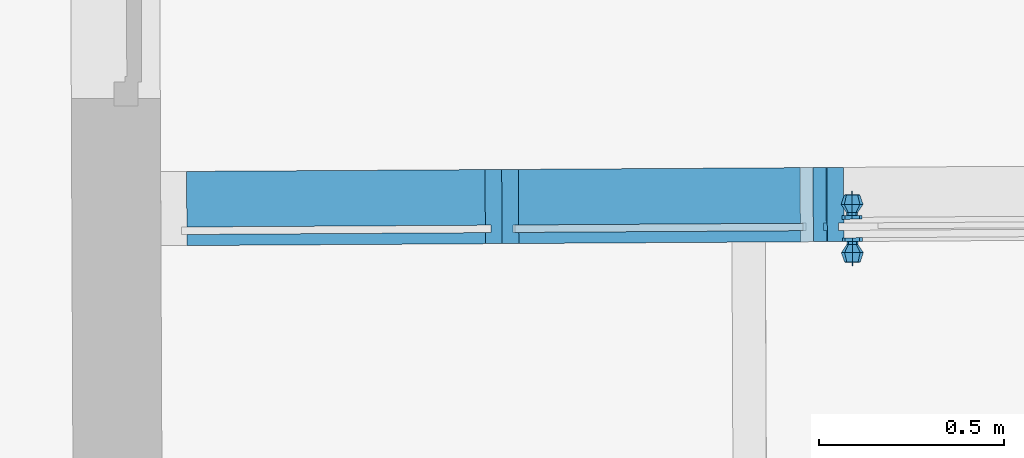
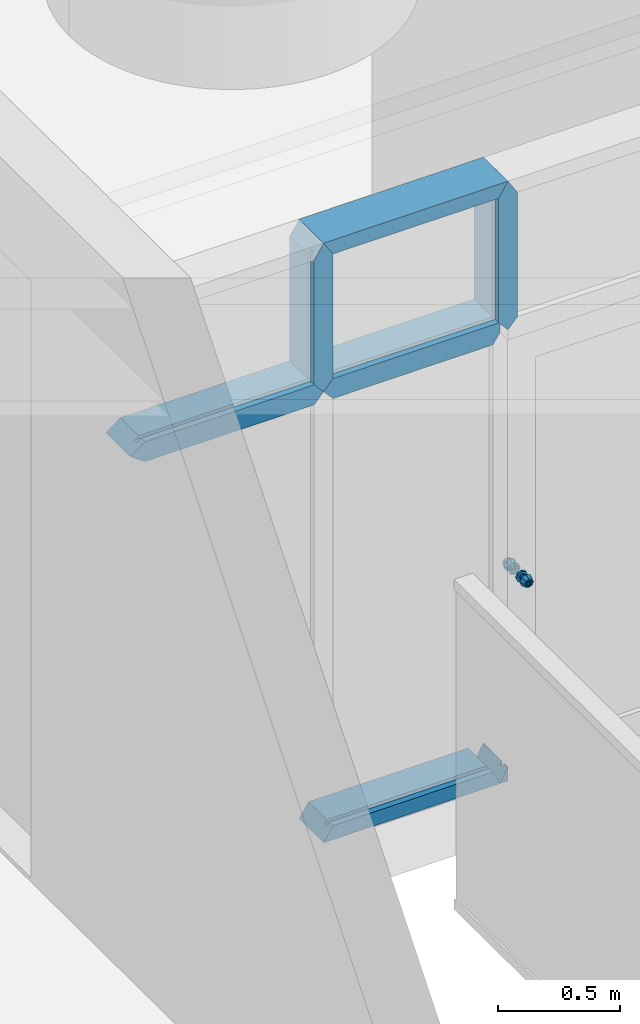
# One storey, part 123 of 158: 8 building element parts, 1 element without a shape of its own.
"""IFC2X3 building model written with IfcOpenShell, lengths in metres."""

from ifc_helpers import new_model, entity, si_unit, converted_unit, derived_unit, money_unit, direction, frame, origin_with_axes, place, context, subcontext, project, spatial, open_shell, faceted_brep, surface_model, material, type_object, element, aggregate, save


model = new_model("IFC2X3")

# Units and contexts
model_context = context("Model", 3, precision=1e-05, world=origin_with_axes(), true_north=direction((0.0, 1.0)))
body_context = subcontext(model_context, "Body", "Model", "MODEL_VIEW")
ifc_project = project(units=[si_unit("LENGTHUNIT", "METRE"), si_unit("AREAUNIT", "SQUARE_METRE"), si_unit("VOLUMEUNIT", "CUBIC_METRE"), converted_unit("PLANEANGLEUNIT", "DEGREE", entity("IfcPlaneAngleMeasure", 0.0174532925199), si_unit("PLANEANGLEUNIT", "RADIAN"), dimensions=[0, 0, 0, 0, 0, 0, 0]), money_unit("EUR"), converted_unit("TIMEUNIT", "Year", entity("IfcTimeMeasure", 31556926.0), si_unit("TIMEUNIT", "SECOND"), dimensions=[0, 0, 1, 0, 0, 0, 0]), si_unit("MASSUNIT", "GRAM", prefix="KILO"), si_unit("THERMODYNAMICTEMPERATUREUNIT", "DEGREE_CELSIUS"), si_unit("LUMINOUSINTENSITYUNIT", "LUMEN"), si_unit("ENERGYUNIT", "JOULE", prefix="MEGA"), derived_unit("THERMALCONDUCTANCEUNIT", [(si_unit("POWERUNIT", "WATT"), 1), (si_unit("LENGTHUNIT", "METRE"), -1), (si_unit("THERMODYNAMICTEMPERATUREUNIT", "KELVIN"), -1)]), derived_unit("SPECIFICHEATCAPACITYUNIT", [(si_unit("ENERGYUNIT", "JOULE"), 1), (si_unit("MASSUNIT", "GRAM", prefix="KILO"), -1), (si_unit("THERMODYNAMICTEMPERATUREUNIT", "KELVIN"), -1)]), derived_unit("MASSDENSITYUNIT", [(si_unit("MASSUNIT", "GRAM", prefix="KILO"), 1), (si_unit("VOLUMEUNIT", "CUBIC_METRE"), -1)])], contexts=[model_context])

# Site, building, storey
site_placement = place(None, origin_with_axes())
site = spatial("IfcSite", under=ifc_project, at=site_placement, Name="Gelände", CompositionType="ELEMENT")
building_placement = place(site_placement, origin_with_axes())
building = spatial("IfcBuilding", under=site, at=building_placement, Name="Gebäude", CompositionType="ELEMENT")
storey_placement = place(building_placement, origin_with_axes())
storey = spatial("IfcBuildingStorey", under=building, at=storey_placement, Name="ERDGESCHOSS", CompositionType="ELEMENT", Elevation=0.0)

# Proxy, building element parts
building_element_proxy_type = type_object("IfcBuildingElementProxyType", Name="Fassadentyp", PredefinedType="NOTDEFINED")
proxy_placement = place(storey_placement, frame((-24.5086107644, 39.472840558, 1.345), z_axis=(0.0, 0.0, 1.0), x_axis=(1.0, 0.0, 0.0)))
proxy = element("IfcBuildingElementProxy", 1, at=proxy_placement, inside=storey, type_object=building_element_proxy_type, Name="Fassade-002")
ifc_material_1 = material(Name="54_Metall, Edelstahl")
building_element_part_1_placement = place(proxy_placement, origin_with_axes())
building_element_part_1 = element("IfcBuildingElementPart", 2, at=building_element_part_1_placement, material=ifc_material_1, Name="54_Metall, Edelstahl", context=body_context, shape_type="SurfaceModel", body=[
    surface_model("IfcShellBasedSurfaceModel", [(-0.324609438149, -0.0972115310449, 1.008), (-0.316609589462, -0.0971623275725, 1.0113137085), (-0.316596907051, -0.0992243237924, 1.01626690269), (-0.32809912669, -0.0992950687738, 1.0115024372), (-0.327923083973, -0.0972319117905, 1.0), (-0.324609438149, -0.0972115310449, 0.992), (-0.316609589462, -0.0971623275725, 0.988686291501), (-0.308609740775, -0.0971131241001, 0.992), (-0.305296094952, -0.0970927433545, 1.0), (-0.308609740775, -0.0971131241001, 1.008), (-0.305094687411, -0.099153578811, 1.0115024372), (-0.316609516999, -0.0971741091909, 1.02122498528), (-0.33161756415, -0.097266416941, 1.01500833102), (-0.332863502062, -0.0993243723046, 1.0), (-0.32809912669, -0.0992950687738, 0.988497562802), (-0.316596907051, -0.0992243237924, 0.983733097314), (-0.305094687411, -0.099153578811, 0.988497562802), (-0.300330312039, -0.0991242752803, 1.0), (-0.301601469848, -0.0970818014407, 1.01500833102), (-0.316764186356, -0.0720268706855, 1.02975923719), (-0.337806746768, -0.0721562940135, 1.02104295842), (-0.337834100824, -0.097304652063, 1.0), (-0.33161756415, -0.097266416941, 0.98499166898), (-0.316609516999, -0.0971741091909, 0.978775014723), (-0.301601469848, -0.0970818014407, 0.98499166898), (-0.295384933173, -0.0970435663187, 1.0), (-0.295721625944, -0.0718974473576, 1.02104295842), (-0.316899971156, -0.0499500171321, 1.015), (-0.32750637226, -0.0500152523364, 1.01060660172), (-0.346522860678, -0.0722099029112, 1.0), (-0.337806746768, -0.0721562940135, 0.978957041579), (-0.316764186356, -0.0720268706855, 0.970240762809), (-0.295721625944, -0.0718974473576, 0.978957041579), (-0.287005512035, -0.0718438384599, 1.0), (-0.306293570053, -0.0498847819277, 1.01060660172), (-0.316900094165, -0.0499300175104, 1.015), (-0.327506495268, -0.0499952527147, 1.01060660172), (-0.331899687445, -0.0500422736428, 1.0), (-0.32750637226, -0.0500152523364, 0.989393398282), (-0.316899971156, -0.0499500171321, 0.985), (-0.306293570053, -0.0498847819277, 0.989393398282), (-0.301900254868, -0.0498577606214, 1.0), (-0.306293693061, -0.049864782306, 1.01060660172), (-0.316948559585, -0.0420501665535, 1.015), (-0.327554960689, -0.0421154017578, 1.01060660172), (-0.331899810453, -0.0500222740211, 1.0), (-0.327506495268, -0.0499952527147, 0.989393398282), (-0.316900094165, -0.0499300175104, 0.985), (-0.306293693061, -0.049864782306, 0.989393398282), (-0.301900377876, -0.0498377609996, 1.0), (-0.306342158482, -0.0419849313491, 1.01060660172), (-0.316949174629, -0.0419501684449, 1.015), (-0.327555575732, -0.0420154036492, 1.01060660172), (-0.331948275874, -0.0421424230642, 1.0), (-0.327554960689, -0.0421154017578, 0.989393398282), (-0.316948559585, -0.0420501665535, 0.985), (-0.306342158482, -0.0419849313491, 0.989393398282), (-0.301948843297, -0.0419579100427, 1.0), (-0.306342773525, -0.0418849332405, 1.01060660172), (-0.316949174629, -0.0419501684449, 1.0151), (-0.327626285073, -0.0420158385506, 1.0106773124), (-0.331948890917, -0.0420424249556, 1.0), (-0.327555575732, -0.0420154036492, 0.989393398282), (-0.316949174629, -0.0419501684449, 0.985), (-0.306342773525, -0.0418849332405, 0.989393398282), (-0.30194945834, -0.0418579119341, 1.0), (-0.306272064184, -0.0418844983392, 1.0106773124), (-0.316949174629, -0.0419501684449, 1.0269), (-0.335969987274, -0.0420671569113, 1.01902117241), (-0.332048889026, -0.042043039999, 1.0), (-0.327626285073, -0.0420158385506, 0.989322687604), (-0.316949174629, -0.0419501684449, 0.9849), (-0.306272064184, -0.0418844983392, 0.989322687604), (-0.301849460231, -0.0418572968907, 1.0), (-0.297928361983, -0.0418331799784, 1.01902117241), (-0.316949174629, -0.0419501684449, 1.027), (-0.336040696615, -0.0420675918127, 1.01909188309), (-0.343848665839, -0.0421156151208, 1.0), (-0.335969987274, -0.0420671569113, 0.980978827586), (-0.316949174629, -0.0419501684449, 0.9731), (-0.297928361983, -0.0418331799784, 0.980978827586), (-0.290049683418, -0.041784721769, 1.0), (-0.297857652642, -0.0418327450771, 1.01909188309), (-0.316949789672, -0.0418501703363, 1.027), (-0.336041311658, -0.0419675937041, 1.01909188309), (-0.343948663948, -0.0421162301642, 1.0), (-0.336040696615, -0.0420675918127, 0.980908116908), (-0.316949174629, -0.0419501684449, 0.973), (-0.297857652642, -0.0418327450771, 0.980908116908), (-0.289949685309, -0.0417841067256, 1.0), (-0.297858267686, -0.0417327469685, 1.01909188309), (-0.317010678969, -0.0319503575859, 1.027), (-0.336102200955, -0.0320677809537, 1.01909188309), (-0.343949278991, -0.0420162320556, 1.0), (-0.336041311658, -0.0419675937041, 0.980908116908), (-0.316949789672, -0.0418501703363, 0.973), (-0.297858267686, -0.0417327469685, 0.980908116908), (-0.289950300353, -0.041684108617, 1.0), (-0.297919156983, -0.031832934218, 1.01909188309), (-0.344010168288, -0.0321164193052, 1.0), (-0.336102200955, -0.0320677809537, 0.980908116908), (-0.317010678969, -0.0319503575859, 0.973), (-0.297919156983, -0.031832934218, 0.980908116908), (-0.29001118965, -0.0317842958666, 1.0)], [open_shell([[[0, 1, 2, 3]], [[1, 0, 4, 5, 6, 7, 8, 9]], [[1, 9, 10, 2]], [[3, 2, 11, 12]], [[4, 0, 3, 13]], [[5, 4, 13, 14]], [[6, 5, 14, 15]], [[7, 6, 15, 16]], [[8, 7, 16, 17]], [[9, 8, 17, 10]], [[2, 10, 18, 11]], [[12, 11, 19, 20]], [[13, 3, 12, 21]], [[14, 13, 21, 22]], [[15, 14, 22, 23]], [[16, 15, 23, 24]], [[17, 16, 24, 25]], [[10, 17, 25, 18]], [[11, 18, 26, 19]], [[20, 19, 27, 28]], [[21, 12, 20, 29]], [[22, 21, 29, 30]], [[23, 22, 30, 31]], [[24, 23, 31, 32]], [[25, 24, 32, 33]], [[18, 25, 33, 26]], [[19, 26, 34, 27]], [[28, 27, 35, 36]], [[29, 20, 28, 37]], [[30, 29, 37, 38]], [[31, 30, 38, 39]], [[32, 31, 39, 40]], [[33, 32, 40, 41]], [[26, 33, 41, 34]], [[27, 34, 42, 35]], [[36, 35, 43, 44]], [[37, 28, 36, 45]], [[38, 37, 45, 46]], [[39, 38, 46, 47]], [[40, 39, 47, 48]], [[41, 40, 48, 49]], [[34, 41, 49, 42]], [[35, 42, 50, 43]], [[44, 43, 51, 52]], [[45, 36, 44, 53]], [[46, 45, 53, 54]], [[47, 46, 54, 55]], [[48, 47, 55, 56]], [[49, 48, 56, 57]], [[42, 49, 57, 50]], [[43, 50, 58, 51]], [[52, 51, 59, 60]], [[53, 44, 52, 61]], [[54, 53, 61, 62]], [[55, 54, 62, 63]], [[56, 55, 63, 64]], [[57, 56, 64, 65]], [[50, 57, 65, 58]], [[51, 58, 66, 59]], [[60, 59, 67, 68]], [[61, 52, 60, 69]], [[62, 61, 69, 70]], [[63, 62, 70, 71]], [[64, 63, 71, 72]], [[65, 64, 72, 73]], [[58, 65, 73, 66]], [[59, 66, 74, 67]], [[68, 67, 75, 76]], [[69, 60, 68, 77]], [[70, 69, 77, 78]], [[71, 70, 78, 79]], [[72, 71, 79, 80]], [[73, 72, 80, 81]], [[66, 73, 81, 74]], [[67, 74, 82, 75]], [[76, 75, 83, 84]], [[77, 68, 76, 85]], [[78, 77, 85, 86]], [[79, 78, 86, 87]], [[80, 79, 87, 88]], [[81, 80, 88, 89]], [[74, 81, 89, 82]], [[75, 82, 90, 83]], [[84, 83, 91, 92]], [[85, 76, 84, 93]], [[86, 85, 93, 94]], [[87, 86, 94, 95]], [[88, 87, 95, 96]], [[89, 88, 96, 97]], [[82, 89, 97, 90]], [[83, 90, 98, 91]], [[93, 84, 92, 99]], [[94, 93, 99, 100]], [[95, 94, 100, 101]], [[96, 95, 101, 102]], [[97, 96, 102, 103]], [[90, 97, 103, 98]]])]),
    faceted_brep([(-0.30918510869, -0.0971166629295, 0.992575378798), (-0.316609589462, -0.0971623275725, 0.9895), (-0.324034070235, -0.0972079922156, 0.992575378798), (-0.327109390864, -0.09722690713, 1.0), (-0.324034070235, -0.0972079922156, 1.0074246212), (-0.316609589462, -0.0971623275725, 1.0105), (-0.30918510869, -0.0971166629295, 1.0074246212), (-0.30610978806, -0.097097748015, 1.0), (-0.309175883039, -0.0986166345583, 0.992575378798), (-0.316600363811, -0.0986622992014, 0.9895), (-0.324024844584, -0.0987079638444, 0.992575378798), (-0.327100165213, -0.0987268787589, 1.0), (-0.324024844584, -0.0987079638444, 1.0074246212), (-0.316600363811, -0.0986622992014, 1.0105), (-0.309175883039, -0.0986166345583, 1.0074246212), (-0.306100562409, -0.0985977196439, 1.0)], [[[0, 1, 2, 3, 4, 5, 6, 7]], [[1, 0, 8, 9]], [[2, 1, 9, 10]], [[3, 2, 10, 11]], [[4, 3, 11, 12]], [[5, 4, 12, 13]], [[6, 5, 13, 14]], [[7, 6, 14, 15]], [[0, 7, 15, 8]], [[8, 15, 14, 13, 12, 11, 10, 9]]]),
    faceted_brep([(-0.315100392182, -0.0986530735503, 0.99), (-0.315056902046, -0.105724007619, 0.992928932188), (-0.318056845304, -0.105742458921, 0.992928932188), (-0.31810033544, -0.0986715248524, 0.99), (-0.315100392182, -0.0986530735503, 1.01), (-0.315056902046, -0.105724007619, 1.00707106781), (-0.315038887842, -0.108652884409, 1.0), (-0.3180388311, -0.108671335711, 1.0), (-0.318056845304, -0.105742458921, 1.00707106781), (-0.31810033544, -0.0986715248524, 1.01)], [[[0, 1, 2, 3]], [[0, 4, 5, 6, 1]], [[1, 6, 7, 2]], [[3, 2, 7, 8, 9]], [[4, 0, 3, 9]], [[5, 4, 9, 8]], [[6, 5, 8, 7]]]),
    surface_model("IfcShellBasedSurfaceModel", [(-0.325719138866, 0.0832114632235, 1.008), (-0.32923419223, 0.0852519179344, 1.0115024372), (-0.31773197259, 0.0853226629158, 1.01626690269), (-0.317719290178, 0.0832606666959, 1.0113137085), (-0.329032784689, 0.0831910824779, 1.0), (-0.333998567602, 0.0852226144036, 1.0), (-0.332727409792, 0.0831801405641, 1.01500833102), (-0.317719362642, 0.0832724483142, 1.02122498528), (-0.30622975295, 0.0853934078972, 1.0115024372), (-0.309719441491, 0.0833098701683, 1.008), (-0.306405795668, 0.0833302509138, 1.0), (-0.309719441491, 0.0833098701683, 0.992), (-0.317719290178, 0.0832606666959, 0.988686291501), (-0.325719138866, 0.0832114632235, 0.992), (-0.32923419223, 0.0852519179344, 0.988497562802), (-0.338943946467, 0.0831419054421, 1.0), (-0.338607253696, 0.057995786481, 1.02104295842), (-0.317564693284, 0.0581252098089, 1.02975923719), (-0.302711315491, 0.0833647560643, 1.01500833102), (-0.301465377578, 0.0854227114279, 1.0), (-0.30622975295, 0.0853934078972, 0.988497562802), (-0.31773197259, 0.0853226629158, 0.983733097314), (-0.332727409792, 0.0831801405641, 0.98499166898), (-0.347323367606, 0.0579421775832, 1.0), (-0.328035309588, 0.0359831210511, 1.01060660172), (-0.317428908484, 0.0360483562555, 1.015), (-0.296522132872, 0.0582546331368, 1.02104295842), (-0.296494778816, 0.0834029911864, 1.0), (-0.302711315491, 0.0833647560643, 0.98499166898), (-0.317719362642, 0.0832724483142, 0.978775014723), (-0.338607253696, 0.057995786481, 0.978957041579), (-0.332428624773, 0.0359560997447, 1.0), (-0.328035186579, 0.0359631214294, 1.01060660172), (-0.317428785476, 0.0360283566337, 1.015), (-0.306822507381, 0.0361135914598, 1.01060660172), (-0.287806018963, 0.0583082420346, 1.0), (-0.296522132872, 0.0582546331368, 0.978957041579), (-0.317564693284, 0.0581252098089, 0.970240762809), (-0.328035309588, 0.0359831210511, 0.989393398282), (-0.332428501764, 0.035936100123, 1.0), (-0.327986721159, 0.0280832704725, 1.01060660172), (-0.317380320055, 0.0281485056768, 1.015), (-0.306822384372, 0.0360935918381, 1.01060660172), (-0.302429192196, 0.0361406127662, 1.0), (-0.306822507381, 0.0361135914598, 0.989393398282), (-0.317428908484, 0.0360483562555, 0.985), (-0.328035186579, 0.0359631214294, 0.989393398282), (-0.332380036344, 0.0280562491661, 1.0), (-0.327986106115, 0.0279832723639, 1.01060660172), (-0.317379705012, 0.0280485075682, 1.015), (-0.306773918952, 0.0282137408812, 1.01060660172), (-0.302429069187, 0.0361206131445, 1.0), (-0.306822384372, 0.0360935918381, 0.989393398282), (-0.317428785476, 0.0360283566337, 0.985), (-0.327986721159, 0.0280832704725, 0.989393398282), (-0.3323794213, 0.0279562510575, 1.0), (-0.328056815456, 0.0279828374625, 1.0106773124), (-0.317379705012, 0.0280485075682, 1.0151), (-0.306773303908, 0.0281137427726, 1.01060660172), (-0.302380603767, 0.0282407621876, 1.0), (-0.306773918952, 0.0282137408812, 0.989393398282), (-0.317380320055, 0.0281485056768, 0.985), (-0.327986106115, 0.0279832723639, 0.989393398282), (-0.332479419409, 0.0279556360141, 1.0), (-0.336400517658, 0.0279315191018, 1.01902117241), (-0.317379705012, 0.0280485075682, 1.0269), (-0.306702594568, 0.0281141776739, 1.0106773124), (-0.302379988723, 0.028140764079, 1.0), (-0.306773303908, 0.0281137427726, 0.989393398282), (-0.317379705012, 0.0280485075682, 0.985), (-0.328056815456, 0.0279828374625, 0.989322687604), (-0.344279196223, 0.0278830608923, 1.0), (-0.336471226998, 0.0279310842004, 1.01909188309), (-0.317379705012, 0.0280485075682, 1.027), (-0.298358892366, 0.0281654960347, 1.01902117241), (-0.302279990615, 0.0281413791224, 1.0), (-0.306702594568, 0.0281141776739, 0.989322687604), (-0.317379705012, 0.0280485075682, 0.9849), (-0.336400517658, 0.0279315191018, 0.980978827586), (-0.344379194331, 0.0278824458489, 1.0), (-0.336470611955, 0.0278310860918, 1.01909188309), (-0.317379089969, 0.0279485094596, 1.027), (-0.298288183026, 0.0281659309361, 1.01909188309), (-0.290480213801, 0.0282139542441, 1.0), (-0.298358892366, 0.0281654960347, 0.980978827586), (-0.317379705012, 0.0280485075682, 0.9731), (-0.336471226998, 0.0279310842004, 0.980908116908), (-0.344378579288, 0.0277824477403, 1.0), (-0.336409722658, 0.0179312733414, 1.01909188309), (-0.317318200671, 0.0180486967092, 1.027), (-0.298287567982, 0.0280659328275, 1.01909188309), (-0.290380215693, 0.0282145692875, 1.0), (-0.298288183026, 0.0281659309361, 0.980908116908), (-0.317379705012, 0.0280485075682, 0.973), (-0.336470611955, 0.0278310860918, 0.980908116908), (-0.344317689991, 0.0178826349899, 1.0), (-0.298226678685, 0.018166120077, 1.01909188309), (-0.290379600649, 0.028114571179, 1.0), (-0.298287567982, 0.0280659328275, 0.980908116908), (-0.317379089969, 0.0279485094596, 0.973), (-0.336409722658, 0.0179312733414, 0.980908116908), (-0.290318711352, 0.0182147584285, 1.0), (-0.298226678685, 0.018166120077, 0.980908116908), (-0.317318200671, 0.0180486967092, 0.973)], [open_shell([[[0, 1, 2, 3]], [[4, 5, 1, 0]], [[1, 6, 7, 2]], [[3, 2, 8, 9]], [[3, 9, 10, 11, 12, 13, 4, 0]], [[13, 14, 5, 4]], [[5, 15, 6, 1]], [[6, 16, 17, 7]], [[2, 7, 18, 8]], [[9, 8, 19, 10]], [[10, 19, 20, 11]], [[11, 20, 21, 12]], [[12, 21, 14, 13]], [[14, 22, 15, 5]], [[15, 23, 16, 6]], [[16, 24, 25, 17]], [[7, 17, 26, 18]], [[8, 18, 27, 19]], [[19, 27, 28, 20]], [[20, 28, 29, 21]], [[21, 29, 22, 14]], [[22, 30, 23, 15]], [[23, 31, 24, 16]], [[24, 32, 33, 25]], [[17, 25, 34, 26]], [[18, 26, 35, 27]], [[27, 35, 36, 28]], [[28, 36, 37, 29]], [[29, 37, 30, 22]], [[30, 38, 31, 23]], [[31, 39, 32, 24]], [[32, 40, 41, 33]], [[25, 33, 42, 34]], [[26, 34, 43, 35]], [[35, 43, 44, 36]], [[36, 44, 45, 37]], [[37, 45, 38, 30]], [[38, 46, 39, 31]], [[39, 47, 40, 32]], [[40, 48, 49, 41]], [[33, 41, 50, 42]], [[34, 42, 51, 43]], [[43, 51, 52, 44]], [[44, 52, 53, 45]], [[45, 53, 46, 38]], [[46, 54, 47, 39]], [[47, 55, 48, 40]], [[48, 56, 57, 49]], [[41, 49, 58, 50]], [[42, 50, 59, 51]], [[51, 59, 60, 52]], [[52, 60, 61, 53]], [[53, 61, 54, 46]], [[54, 62, 55, 47]], [[55, 63, 56, 48]], [[56, 64, 65, 57]], [[49, 57, 66, 58]], [[50, 58, 67, 59]], [[59, 67, 68, 60]], [[60, 68, 69, 61]], [[61, 69, 62, 54]], [[62, 70, 63, 55]], [[63, 71, 64, 56]], [[64, 72, 73, 65]], [[57, 65, 74, 66]], [[58, 66, 75, 67]], [[67, 75, 76, 68]], [[68, 76, 77, 69]], [[69, 77, 70, 62]], [[70, 78, 71, 63]], [[71, 79, 72, 64]], [[72, 80, 81, 73]], [[65, 73, 82, 74]], [[66, 74, 83, 75]], [[75, 83, 84, 76]], [[76, 84, 85, 77]], [[77, 85, 78, 70]], [[78, 86, 79, 71]], [[79, 87, 80, 72]], [[80, 88, 89, 81]], [[73, 81, 90, 82]], [[74, 82, 91, 83]], [[83, 91, 92, 84]], [[84, 92, 93, 85]], [[85, 93, 86, 78]], [[86, 94, 87, 79]], [[87, 95, 88, 80]], [[81, 89, 96, 90]], [[82, 90, 97, 91]], [[91, 97, 98, 92]], [[92, 98, 99, 93]], [[93, 99, 94, 86]], [[94, 100, 95, 87]], [[90, 96, 101, 97]], [[97, 101, 102, 98]], [[98, 102, 103, 99]], [[99, 103, 100, 94]]])]),
    faceted_brep([(-0.310294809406, 0.0833063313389, 0.992575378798), (-0.307219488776, 0.0833252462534, 1.0), (-0.310294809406, 0.0833063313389, 1.0074246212), (-0.317719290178, 0.0832606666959, 1.0105), (-0.325143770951, 0.0832150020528, 1.0074246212), (-0.32821909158, 0.0831960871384, 1.0), (-0.325143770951, 0.0832150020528, 0.992575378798), (-0.317719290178, 0.0832606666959, 0.9895), (-0.310304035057, 0.0848063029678, 0.992575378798), (-0.307228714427, 0.0848252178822, 1.0), (-0.310304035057, 0.0848063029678, 1.0074246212), (-0.317728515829, 0.0847606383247, 1.0105), (-0.325152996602, 0.0847149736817, 1.0074246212), (-0.328228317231, 0.0846960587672, 1.0), (-0.325152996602, 0.0847149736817, 0.992575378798), (-0.317728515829, 0.0847606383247, 0.9895)], [[[0, 1, 2, 3, 4, 5, 6, 7]], [[0, 8, 9, 1]], [[1, 9, 10, 2]], [[2, 10, 11, 3]], [[3, 11, 12, 4]], [[4, 12, 13, 5]], [[5, 13, 14, 6]], [[6, 14, 15, 7]], [[7, 15, 8, 0]], [[8, 15, 14, 13, 12, 11, 10, 9]]]),
    faceted_brep([(-0.316228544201, 0.0847698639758, 0.99), (-0.319228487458, 0.0847514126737, 0.99), (-0.319271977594, 0.0918223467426, 0.992928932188), (-0.316272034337, 0.0918407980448, 0.992928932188), (-0.316228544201, 0.0847698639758, 1.01), (-0.319228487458, 0.0847514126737, 1.01), (-0.319271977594, 0.0918223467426, 1.00707106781), (-0.319289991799, 0.0947512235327, 1.0), (-0.316290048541, 0.0947696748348, 1.0), (-0.316272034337, 0.0918407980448, 1.00707106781)], [[[0, 1, 2, 3]], [[4, 5, 1, 0]], [[1, 5, 6, 7, 2]], [[3, 2, 7, 8]], [[0, 3, 8, 9, 4]], [[9, 6, 5, 4]], [[8, 7, 6, 9]]]),
])
ifc_material_2 = material(Name="53_Metall, Aluminium")
building_element_part_2_placement = place(proxy_placement, origin_with_axes())
building_element_part_2 = element("IfcBuildingElementPart", 3, at=building_element_part_2_placement, material=ifc_material_2, Name="53_Metall, Aluminium", context=body_context, shape_type="Brep", body=[
    faceted_brep([(-1.22637618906, -0.0175430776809, 2.95000001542), (-1.21673351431, -0.017483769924, 2.93500001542), (-1.21654900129, -0.0474832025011, 2.93500001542), (-1.26154815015, -0.0477599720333, 3.00500001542), (-1.26277823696, 0.152236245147, 3.00500001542), (-1.2177790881, 0.152513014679, 2.93500001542), (-1.21685652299, 0.00251585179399, 2.93500001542), (-1.22649919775, 0.00245654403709, 2.95000001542), (-0.419860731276, -0.0125825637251, 2.95000001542), (-0.429503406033, -0.012641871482, 2.93500001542), (-0.429318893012, -0.042641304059, 2.93500001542), (-0.384319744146, -0.0423645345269, 3.00500001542), (-0.385549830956, 0.157631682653, 3.00500001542), (-0.430548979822, 0.157354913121, 2.93500001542), (-0.429626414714, 0.00735775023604, 2.93500001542), (-0.419983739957, 0.00741705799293, 2.95000001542)], [[[0, 1, 2, 3, 4, 5, 6, 7]], [[0, 8, 9, 1]], [[9, 10, 2, 1]], [[2, 10, 11, 3]], [[3, 11, 12, 4]], [[4, 12, 13, 5]], [[6, 5, 13, 14]], [[14, 15, 7, 6]], [[7, 15, 8, 0]], [[8, 15, 14, 13, 12, 11, 10, 9]]]),
])
building_element_part_3_placement = place(proxy_placement, origin_with_axes())
building_element_part_3 = element("IfcBuildingElementPart", 4, at=building_element_part_3_placement, material=ifc_material_2, Name="53_Metall, Aluminium", context=body_context, shape_type="Brep", body=[
    faceted_brep([(-1.22637618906, -0.0175430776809, 0.055), (-1.22649919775, 0.00245654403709, 0.055), (-1.21685652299, 0.00251585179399, 0.07), (-1.2177790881, 0.152513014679, 0.07), (-1.26277823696, 0.152236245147, 0.0), (-1.26154815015, -0.0477599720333, 0.0), (-1.21654900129, -0.0474832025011, 0.07), (-1.21673351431, -0.017483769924, 0.07), (-0.449631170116, -0.012765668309, 0.055), (-0.449754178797, 0.007233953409, 0.055), (-0.457254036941, 0.00718782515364, 0.07), (-0.458176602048, 0.157184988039, 0.07), (-0.423177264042, 0.157400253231, 0.0), (-0.421947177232, -0.0425959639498, 0.0), (-0.456946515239, -0.0428112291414, 0.07), (-0.45713102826, -0.0128117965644, 0.07)], [[[0, 1, 2, 3, 4, 5, 6, 7]], [[1, 0, 8, 9]], [[10, 2, 1, 9]], [[2, 10, 11, 3]], [[4, 3, 11, 12]], [[5, 4, 12, 13]], [[6, 5, 13, 14]], [[15, 7, 6, 14]], [[0, 7, 15, 8]], [[8, 15, 14, 13, 12, 11, 10, 9]]]),
])
building_element_part_4_placement = place(proxy_placement, origin_with_axes())
building_element_part_4 = element("IfcBuildingElementPart", 5, at=building_element_part_4_placement, material=ifc_material_2, Name="53_Metall, Aluminium", context=body_context, shape_type="Brep", body=[
    faceted_brep([(-1.29173209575, -0.0179450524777, 2.95833334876), (-1.30673181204, -0.0180373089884, 2.93500001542), (-1.30654729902, -0.0480367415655, 2.93500001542), (-1.26154815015, -0.0477599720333, 3.00500001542), (-1.26277823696, 0.152236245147, 3.00500001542), (-1.30777738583, 0.151959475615, 2.93500001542), (-1.30685482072, 0.00196231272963, 2.93500001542), (-1.29185510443, 0.00205456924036, 2.95833334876), (-1.29173209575, -0.0179450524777, 2.29408040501), (-1.30673181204, -0.0180373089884, 2.31074707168), (-1.30654729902, -0.0480367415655, 2.31074707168), (-1.26154815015, -0.0477599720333, 2.26074707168), (-1.21654900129, -0.0474832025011, 2.31074707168), (-1.21654900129, -0.0474832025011, 2.93500001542), (-1.21673351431, -0.017483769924, 2.93500001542), (-1.2317332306, -0.0175760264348, 2.95833334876), (-1.23185623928, 0.00242359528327, 2.95833334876), (-1.21685652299, 0.00251585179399, 2.93500001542), (-1.2177790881, 0.152513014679, 2.93500001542), (-1.26277823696, 0.152236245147, 2.26074707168), (-1.30777738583, 0.151959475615, 2.31074707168), (-1.2177790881, 0.152513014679, 2.31074707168), (-1.30685482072, 0.00196231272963, 2.31074707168), (-1.29185510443, 0.00205456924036, 2.29408040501), (-1.21685652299, 0.00251585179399, 2.31074707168), (-1.23185623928, 0.00242359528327, 2.29408040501), (-1.2317332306, -0.0175760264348, 2.29408040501), (-1.21673351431, -0.017483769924, 2.31074707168)], [[[0, 1, 2, 3, 4, 5, 6, 7]], [[1, 0, 8, 9]], [[1, 9, 10, 2]], [[11, 12, 13, 3, 2, 10]], [[3, 13, 14, 15, 16, 17, 18, 4]], [[19, 20, 5, 4, 18, 21]], [[22, 6, 5, 20]], [[7, 6, 22, 23]], [[0, 7, 23, 8]], [[23, 22, 20, 19, 11, 10, 9, 8]], [[21, 24, 25, 26, 27, 12, 11, 19]], [[14, 13, 12, 27]], [[14, 27, 26, 15]], [[15, 26, 25, 16]], [[17, 16, 25, 24]], [[24, 21, 18, 17]]]),
])
building_element_part_5_placement = place(proxy_placement, origin_with_axes())
building_element_part_5 = element("IfcBuildingElementPart", 6, at=building_element_part_5_placement, material=ifc_material_2, Name="53_Metall, Aluminium", context=body_context, shape_type="Brep", body=[
    faceted_brep([(-0.414503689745, -0.0125496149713, 2.95833334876), (-0.429503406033, -0.012641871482, 2.93500001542), (-0.429318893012, -0.042641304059, 2.93500001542), (-0.384319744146, -0.0423645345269, 3.00500001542), (-0.385549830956, 0.157631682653, 3.00500001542), (-0.430548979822, 0.157354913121, 2.93500001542), (-0.429626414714, 0.00735775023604, 2.93500001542), (-0.414626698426, 0.00745000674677, 2.95833334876), (-0.414503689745, -0.0125496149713, 2.29408040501), (-0.429503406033, -0.012641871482, 2.31074707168), (-0.429318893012, -0.042641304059, 2.31074707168), (-0.384319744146, -0.0423645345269, 2.26074707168), (-0.339320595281, -0.0420877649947, 2.31074707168), (-0.339320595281, -0.0420877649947, 2.93500001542), (-0.339505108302, -0.0120883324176, 2.93500001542), (-0.354504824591, -0.0121805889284, 2.95833334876), (-0.354627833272, 0.00781903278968, 2.95833334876), (-0.339628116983, 0.0079112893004, 2.93500001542), (-0.34055068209, 0.157908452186, 2.93500001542), (-0.385549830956, 0.157631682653, 2.26074707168), (-0.430548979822, 0.157354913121, 2.31074707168), (-0.34055068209, 0.157908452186, 2.31074707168), (-0.429626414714, 0.00735775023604, 2.31074707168), (-0.414626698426, 0.00745000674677, 2.29408040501), (-0.339628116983, 0.0079112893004, 2.31074707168), (-0.354627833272, 0.00781903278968, 2.29408040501), (-0.354504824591, -0.0121805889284, 2.29408040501), (-0.339505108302, -0.0120883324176, 2.31074707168)], [[[0, 1, 2, 3, 4, 5, 6, 7]], [[1, 0, 8, 9]], [[1, 9, 10, 2]], [[11, 12, 13, 3, 2, 10]], [[3, 13, 14, 15, 16, 17, 18, 4]], [[19, 20, 5, 4, 18, 21]], [[22, 6, 5, 20]], [[7, 6, 22, 23]], [[0, 7, 23, 8]], [[23, 22, 20, 19, 11, 10, 9, 8]], [[21, 24, 25, 26, 27, 12, 11, 19]], [[14, 13, 12, 27]], [[14, 27, 26, 15]], [[15, 26, 25, 16]], [[17, 16, 25, 24]], [[24, 21, 18, 17]]]),
])
building_element_part_6_placement = place(proxy_placement, origin_with_axes())
building_element_part_6 = element("IfcBuildingElementPart", 7, at=building_element_part_6_placement, material=ifc_material_2, Name="53_Metall, Aluminium", context=body_context, shape_type="Brep", body=[
    faceted_brep([(-1.23023325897, -0.0175668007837, 2.22574707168), (-1.21673351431, -0.017483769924, 2.21074707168), (-1.21654900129, -0.0474832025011, 2.21074707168), (-1.26154815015, -0.0477599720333, 2.26074707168), (-1.26277823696, 0.152236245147, 2.26074707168), (-1.2177790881, 0.152513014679, 2.21074707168), (-1.21685652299, 0.00251585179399, 2.21074707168), (-1.23035626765, 0.00243282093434, 2.22574707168), (-0.446631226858, -0.0127472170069, 2.22574707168), (-0.45713102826, -0.0128117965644, 2.21074707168), (-0.456946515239, -0.0428112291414, 2.21074707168), (-0.421947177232, -0.0425959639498, 2.26074707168), (-0.421947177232, -0.0425959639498, 2.31074707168), (-1.21654900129, -0.0474832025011, 2.31074707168), (-1.21673351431, -0.017483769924, 2.31074707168), (-1.23023325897, -0.0175668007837, 2.29574707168), (-1.23035626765, 0.00243282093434, 2.29574707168), (-1.21685652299, 0.00251585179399, 2.31074707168), (-1.2177790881, 0.152513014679, 2.31074707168), (-0.423177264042, 0.157400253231, 2.26074707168), (-0.458176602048, 0.157184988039, 2.21074707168), (-0.423177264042, 0.157400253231, 2.31074707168), (-0.457254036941, 0.00718782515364, 2.21074707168), (-0.446754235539, 0.00725240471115, 2.22574707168), (-0.422254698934, 0.00740309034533, 2.31074707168), (-0.422254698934, 0.00740309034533, 2.29574707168), (-0.422131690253, -0.0125965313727, 2.29574707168), (-0.422131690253, -0.0125965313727, 2.31074707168)], [[[0, 1, 2, 3, 4, 5, 6, 7]], [[1, 0, 8, 9]], [[1, 9, 10, 2]], [[10, 11, 12, 13, 3, 2]], [[3, 13, 14, 15, 16, 17, 18, 4]], [[19, 20, 5, 4, 18, 21]], [[22, 6, 5, 20]], [[7, 6, 22, 23]], [[0, 7, 23, 8]], [[23, 22, 20, 19, 11, 10, 9, 8]], [[21, 24, 25, 26, 27, 12, 11, 19]], [[14, 13, 12, 27]], [[14, 27, 26, 15]], [[15, 26, 25, 16]], [[17, 16, 25, 24]], [[24, 21, 18, 17]]]),
])
building_element_part_7_placement = place(proxy_placement, origin_with_axes())
building_element_part_7 = element("IfcBuildingElementPart", 8, at=building_element_part_7_placement, material=ifc_material_2, Name="53_Metall, Aluminium", context=body_context, shape_type="Brep", body=[
    faceted_brep([(-0.394632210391, -0.0124273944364, 0.055), (-0.394755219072, 0.00757222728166, 0.055), (-0.387255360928, 0.00761835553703, 0.07), (-0.388177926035, 0.157615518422, 0.07), (-0.423177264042, 0.157400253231, 0.0), (-0.421947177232, -0.0425959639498, 0.0), (-0.386947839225, -0.0423806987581, 0.07), (-0.387132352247, -0.012381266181, 0.07), (-0.384504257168, -0.0123651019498, 0.055), (-0.384627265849, 0.00763451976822, 0.055), (-0.384627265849, 0.00763451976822, 0.07), (-0.385549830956, 0.157631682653, 0.07), (-0.385549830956, 0.157631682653, 0.0), (-0.384319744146, -0.0423645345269, 0.0), (-0.384319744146, -0.0423645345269, 0.07), (-0.384504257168, -0.0123651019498, 0.07)], [[[0, 1, 2, 3, 4, 5, 6, 7]], [[1, 0, 8, 9]], [[10, 2, 1, 9]], [[2, 10, 11, 3]], [[12, 4, 3, 11]], [[13, 5, 4, 12]], [[14, 6, 5, 13]], [[15, 7, 6, 14]], [[0, 7, 15, 8]], [[8, 15, 14, 13, 12, 11, 10, 9]]]),
])
building_element_part_8_placement = place(proxy_placement, origin_with_axes())
building_element_part_8 = element("IfcBuildingElementPart", 9, at=building_element_part_8_placement, material=ifc_material_2, Name="53_Metall, Aluminium", context=body_context, shape_type="Brep", body=[
    faceted_brep([(-2.13279705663, -0.0231180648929, 2.22574707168), (-2.11179745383, -0.0229889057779, 2.21074707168), (-2.11161294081, -0.052988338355, 2.21074707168), (-2.18161161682, -0.0534188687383, 2.26074707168), (-2.18284170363, 0.146577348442, 2.26074707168), (-2.11284302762, 0.147007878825, 2.21074707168), (-2.11192046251, -0.00298928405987, 2.21074707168), (-2.13292006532, -0.00311844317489, 2.22574707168), (-1.29323206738, -0.0179542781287, 2.22574707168), (-1.30673181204, -0.0180373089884, 2.21074707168), (-1.30654729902, -0.0480367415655, 2.21074707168), (-1.26154815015, -0.0477599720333, 2.26074707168), (-1.30654729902, -0.0480367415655, 2.31074707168), (-2.11161294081, -0.052988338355, 2.31074707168), (-2.11179745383, -0.0229889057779, 2.31074707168), (-2.13279705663, -0.0231180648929, 2.29574707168), (-2.13292006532, -0.00311844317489, 2.29574707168), (-2.11192046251, -0.00298928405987, 2.31074707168), (-2.11284302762, 0.147007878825, 2.31074707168), (-1.26277823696, 0.152236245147, 2.26074707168), (-1.30777738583, 0.151959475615, 2.21074707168), (-1.30777738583, 0.151959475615, 2.31074707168), (-1.30685482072, 0.00196231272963, 2.21074707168), (-1.29335507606, 0.00204534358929, 2.22574707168), (-1.30685482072, 0.00196231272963, 2.31074707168), (-1.29335507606, 0.00204534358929, 2.29574707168), (-1.29323206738, -0.0179542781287, 2.29574707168), (-1.30673181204, -0.0180373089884, 2.31074707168)], [[[0, 1, 2, 3, 4, 5, 6, 7]], [[1, 0, 8, 9]], [[1, 9, 10, 2]], [[11, 12, 13, 3, 2, 10]], [[3, 13, 14, 15, 16, 17, 18, 4]], [[19, 20, 5, 4, 18, 21]], [[22, 6, 5, 20]], [[7, 6, 22, 23]], [[0, 7, 23, 8]], [[23, 22, 20, 19, 11, 10, 9, 8]], [[21, 24, 25, 26, 27, 12, 11, 19]], [[14, 13, 12, 27]], [[14, 27, 26, 15]], [[15, 26, 25, 16]], [[17, 16, 25, 24]], [[24, 21, 18, 17]]]),
])
aggregate(proxy, [building_element_part_1, building_element_part_2, building_element_part_3, building_element_part_4, building_element_part_5, building_element_part_6, building_element_part_7, building_element_part_8])

save(model, "model.ifc")
